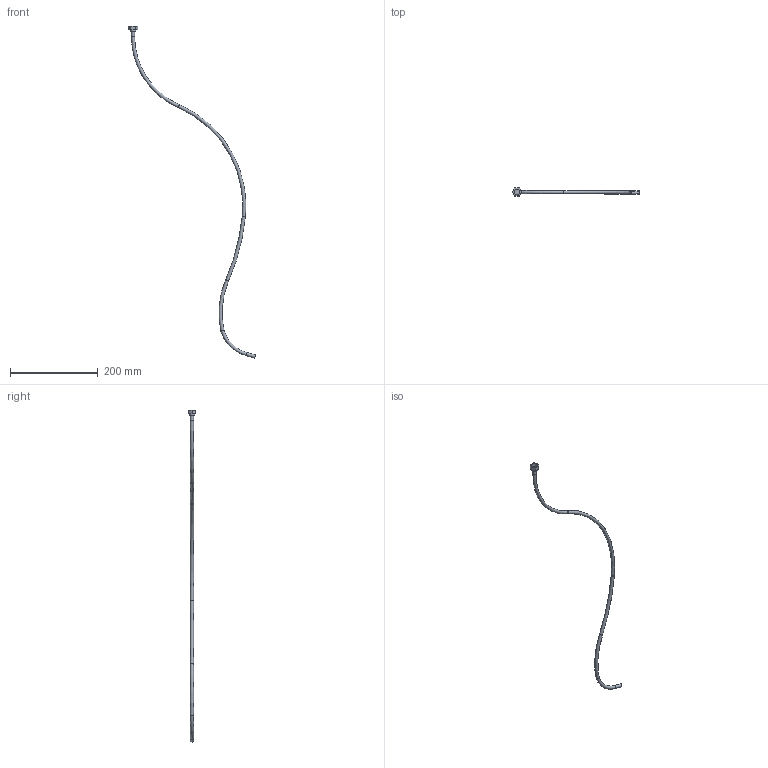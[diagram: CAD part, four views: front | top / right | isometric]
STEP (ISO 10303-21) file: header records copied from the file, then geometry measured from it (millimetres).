
FILE_DESCRIPTION(/* description */ (''),/* implementation_level */ '2;1');
FILE_NAME(/* name */ 'C:\Users\user\Documents\Inventor\Home Ventilator CPAP\Oxygen hose.stp',/* time_stamp */ '2020-03-29T22:40:24+02:00',/* author */ ('user'),/* organization */ (''),/* preprocessor_version */ 'ST-DEVELOPER v16.5',/* originating_system */ 'Autodesk Inventor 2017',/* authorisation */ '');
FILE_SCHEMA (('AUTOMOTIVE_DESIGN { 1 0 10303 214 3 1 1 }'));
Length unit declared in the file: millimetre
Products named in the file (1): Oxygen hose
Bounding box: 289.25 x 18.19 x 755.35 mm (x, y, z)
Volume: 13538.2 mm3; surface area: 38758.4 mm2
Topology: 2 solids, 2 shells, 32 faces, 62 edges, 36 vertices
Faces by surface type: plane 12, cylinder 10, torus 10
Full cylindrical faces by diameter (mm): 6 x2, 7.25 x2, 12.7 x2
Entity records: 824 total; most frequent: CARTESIAN_POINT 161, DIRECTION 130, ORIENTED_EDGE 92, AXIS2_PLACEMENT_3D 56, EDGE_LOOP 52, EDGE_CURVE 45, VERTEX_POINT 35, FACE_OUTER_BOUND 32
